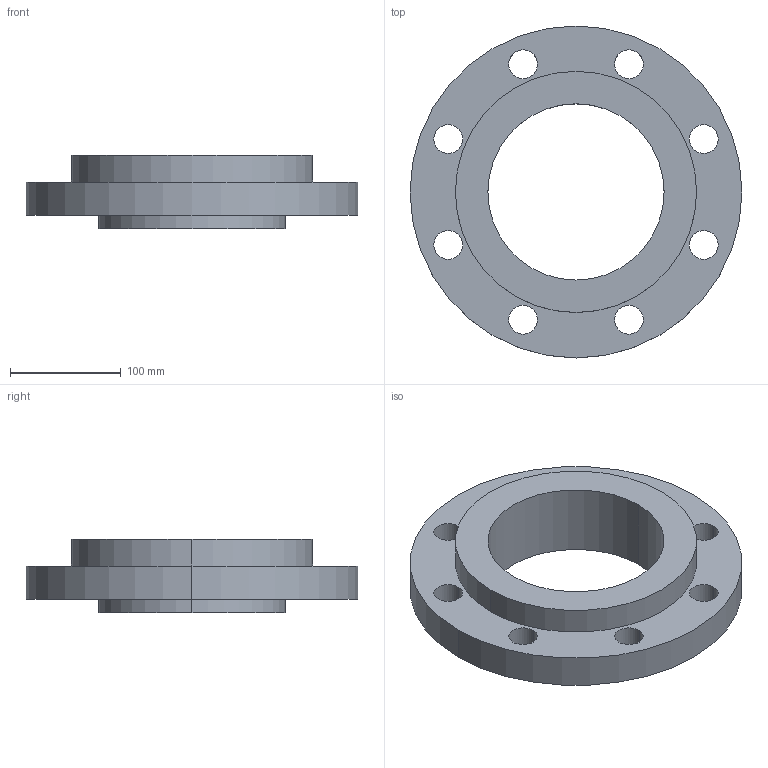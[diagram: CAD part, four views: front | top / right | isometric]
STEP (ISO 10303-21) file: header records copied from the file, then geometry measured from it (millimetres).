
FILE_DESCRIPTION (( 'STEP AP214' ), '1' );
FILE_NAME ('PN40 DN150 Type 04 in 34 - (Type A Face).STEP', '2019-01-05T00:23:51', ( '' ), ( '' ), 'SwSTEP 2.0', 'SolidWorks 2019', '' );
FILE_SCHEMA (( 'AUTOMOTIVE_DESIGN' ));
Length unit declared in the file: millimetre
Products named in the file (1): PN40 DN150 Type 04 in 34 - (Type A Face)
Bounding box: 300 x 300 x 66 mm (x, y, z)
Volume: 1653756.6 mm3; surface area: 240481.2 mm2
Topology: 2 solids, 2 shells, 37 faces, 90 edges, 58 vertices
Faces by surface type: cylinder 26, cone 6, plane 5
Entity records: 1197 total; most frequent: DIRECTION 224, CARTESIAN_POINT 186, ORIENTED_EDGE 180, AXIS2_PLACEMENT_3D 96, EDGE_CURVE 90, EDGE_LOOP 58, CIRCLE 58, VERTEX_POINT 58
